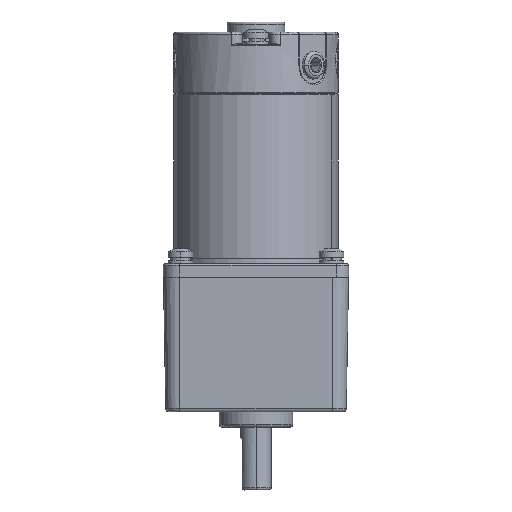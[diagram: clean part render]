
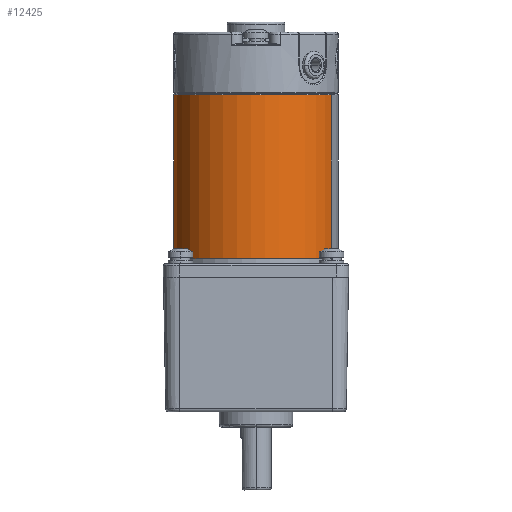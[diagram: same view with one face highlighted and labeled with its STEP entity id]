
A CAD part, left-side view. The second image highlights one B-rep face of the part: STEP entity #12425.
In plain terms, the highlighted cylindrical face has radius 40 mm (diameter 80 mm), a partial arc.
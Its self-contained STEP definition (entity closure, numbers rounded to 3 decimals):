
#143 = AXIS2_PLACEMENT_3D ( 'NONE', #7050, #8562, #12259 ) ;
#790 = VERTEX_POINT ( 'NONE', #1588 ) ;
#1097 = CARTESIAN_POINT ( 'NONE',  ( 0., 0., -40. ) ) ;
#1371 = CARTESIAN_POINT ( 'NONE',  ( 0., 0.3, -40. ) ) ;
#1588 = CARTESIAN_POINT ( 'NONE',  ( 0., 80., 40. ) ) ;
#2250 = CARTESIAN_POINT ( 'NONE',  ( -40., 0.3, 0. ) ) ;
#2341 = CARTESIAN_POINT ( 'NONE',  ( 0., 0., 40. ) ) ;
#2596 = CIRCLE ( 'NONE', #143, 40. ) ;
#3200 = CARTESIAN_POINT ( 'NONE',  ( 0., 0.3, 40. ) ) ;
#3396 = EDGE_CURVE ( 'NONE', #12644, #6818, #10977, .T. ) ;
#3636 = FACE_OUTER_BOUND ( 'NONE', #16346, .T. ) ;
#4063 = EDGE_CURVE ( 'NONE', #12644, #9629, #2596, .T. ) ;
#4115 = VERTEX_POINT ( 'NONE', #3200 ) ;
#4717 = ORIENTED_EDGE ( 'NONE', *, *, #14412, .T. ) ;
#4807 = DIRECTION ( 'NONE',  ( 0., 1., 0. ) ) ;
#5643 = AXIS2_PLACEMENT_3D ( 'NONE', #15260, #13663, #7444 ) ;
#6269 = VECTOR ( 'NONE', #11456, 1000. ) ;
#6415 = VECTOR ( 'NONE', #8761, 1000. ) ;
#6818 = VERTEX_POINT ( 'NONE', #14800 ) ;
#7050 = CARTESIAN_POINT ( 'NONE',  ( 0., 0.3, 0. ) ) ;
#7298 = CARTESIAN_POINT ( 'NONE',  ( 0., 80., 0. ) ) ;
#7386 = ORIENTED_EDGE ( 'NONE', *, *, #3396, .F. ) ;
#7444 = DIRECTION ( 'NONE',  ( 0., 0., 1. ) ) ;
#7852 = AXIS2_PLACEMENT_3D ( 'NONE', #7298, #12433, #13823 ) ;
#8562 = DIRECTION ( 'NONE',  ( 0., 1., 0. ) ) ;
#8761 = DIRECTION ( 'NONE',  ( 0., 1., 0. ) ) ;
#9149 = AXIS2_PLACEMENT_3D ( 'NONE', #16362, #4807, #9964 ) ;
#9629 = VERTEX_POINT ( 'NONE', #2250 ) ;
#9964 = DIRECTION ( 'NONE',  ( 0., 0., 1. ) ) ;
#10023 = CIRCLE ( 'NONE', #7852, 40. ) ;
#10189 = EDGE_CURVE ( 'NONE', #9629, #4115, #13177, .T. ) ;
#10977 = LINE ( 'NONE', #1097, #6415 ) ;
#11456 = DIRECTION ( 'NONE',  ( 0., 1., 0. ) ) ;
#12259 = DIRECTION ( 'NONE',  ( 0., 0., 1. ) ) ;
#12425 = ADVANCED_FACE ( 'NONE', ( #3636 ), #15014, .T. ) ;
#12433 = DIRECTION ( 'NONE',  ( 0., -1., 0. ) ) ;
#12644 = VERTEX_POINT ( 'NONE', #1371 ) ;
#13177 = CIRCLE ( 'NONE', #9149, 40. ) ;
#13663 = DIRECTION ( 'NONE',  ( 0., 1., 0. ) ) ;
#13823 = DIRECTION ( 'NONE',  ( 0., 0., 1. ) ) ;
#14045 = LINE ( 'NONE', #2341, #6269 ) ;
#14134 = ORIENTED_EDGE ( 'NONE', *, *, #10189, .T. ) ;
#14412 = EDGE_CURVE ( 'NONE', #790, #6818, #10023, .T. ) ;
#14584 = ORIENTED_EDGE ( 'NONE', *, *, #4063, .T. ) ;
#14662 = ORIENTED_EDGE ( 'NONE', *, *, #15988, .T. ) ;
#14800 = CARTESIAN_POINT ( 'NONE',  ( 0., 80., -40. ) ) ;
#15014 = CYLINDRICAL_SURFACE ( 'NONE', #5643, 40. ) ;
#15260 = CARTESIAN_POINT ( 'NONE',  ( 0., 0., 0. ) ) ;
#15988 = EDGE_CURVE ( 'NONE', #4115, #790, #14045, .T. ) ;
#16346 = EDGE_LOOP ( 'NONE', ( #7386, #14584, #14134, #14662, #4717 ) ) ;
#16362 = CARTESIAN_POINT ( 'NONE',  ( 0., 0.3, 0. ) ) ;
